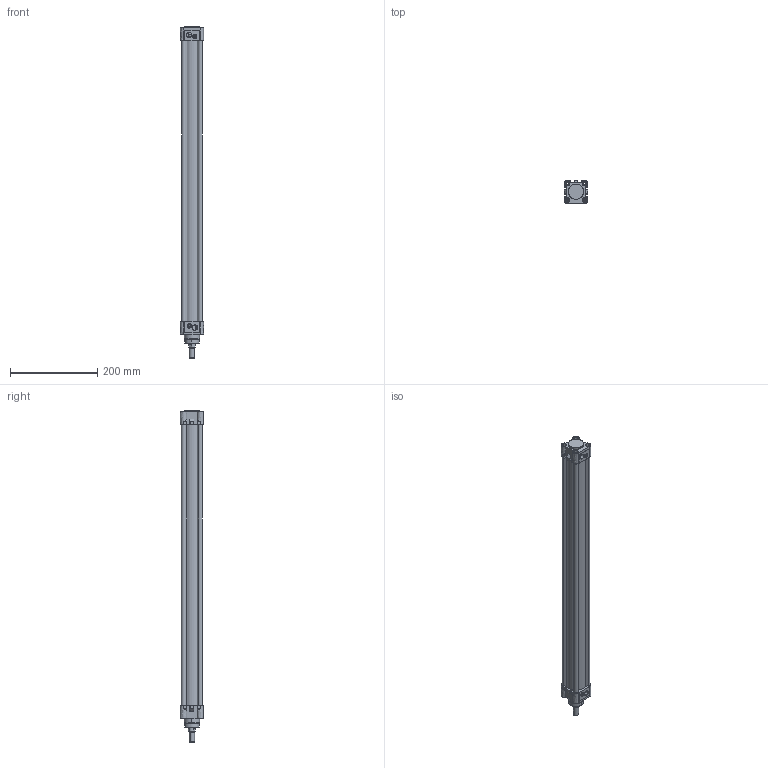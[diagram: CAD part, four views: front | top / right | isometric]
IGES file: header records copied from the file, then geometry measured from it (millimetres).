
Start section: SolidWorks IGES file using analytic representation for surfaces
Global section: file name: D:\ARICA 3D 禽Z軲LER\3D IGES\MDNC\MDNC 40\MDNC40X600CYLINDER.IGS,1; native system: 5HSolidWorks 2013; preprocessor: SolidWorks 2013; author: user; date: 160401.101104; units: millimetre
Bounding box: 53 x 53.3 x 763 mm (x, y, z)
Surface area: 349621.7 mm2 (no closed solid volume)
Topology: 0 solids, 0 shells, 617 faces, 10242 edges, 10236 vertices
Faces by surface type: revolution 382, bspline 235
